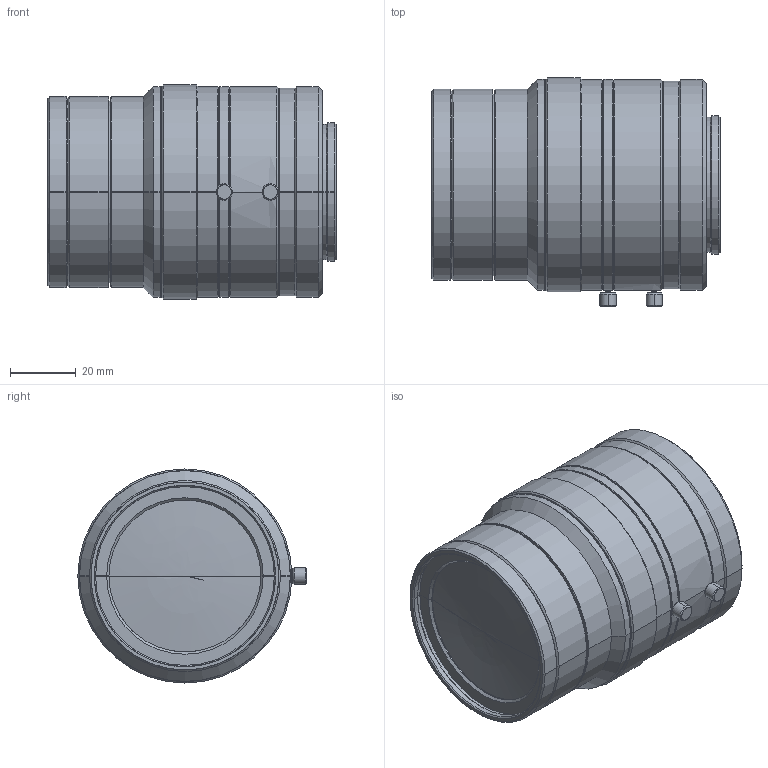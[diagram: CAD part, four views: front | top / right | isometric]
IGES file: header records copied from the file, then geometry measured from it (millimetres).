
Start section: SolidWorks IGES file using analytic representation for surfaces
Global section: file name: \\192.168.200.11\Development\3 製品\1 標準品\06 ＣＣＴＶレンズ\08 VS-085 series\025 VS-25085_C&M42\10.3D外観モデル\VS-25085_M42.IGS; native system: SolidWorks 2020; preprocessor: SolidWorks 2020; author: sugiyama_vst; date: 200731.110410; units: millimetre
Bounding box: 87.46 x 69.3 x 65 mm (x, y, z)
Surface area: 27196.1 mm2 (no closed solid volume)
Topology: 0 solids, 0 shells, 144 faces, 2800 edges, 2799 vertices
Faces by surface type: revolution 124, bspline 20
